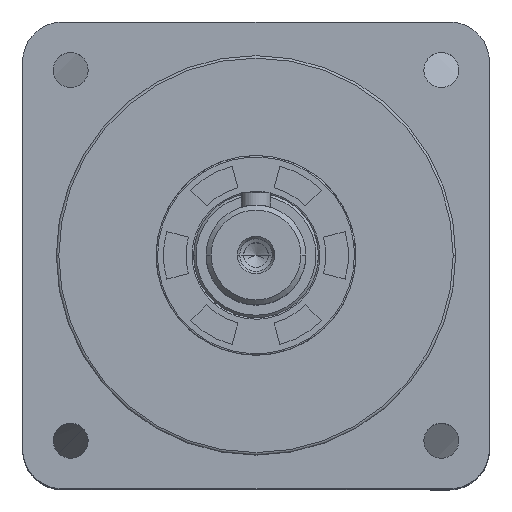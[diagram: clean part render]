
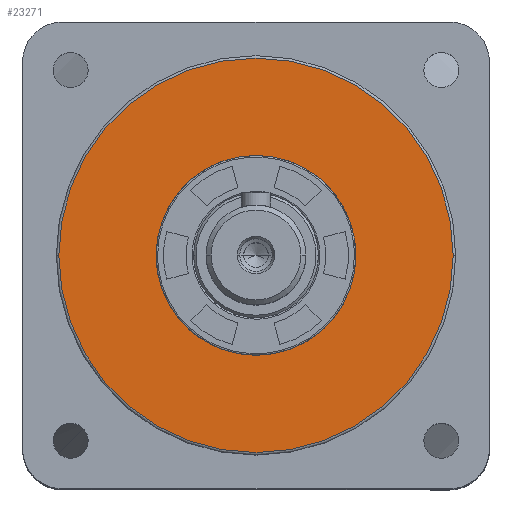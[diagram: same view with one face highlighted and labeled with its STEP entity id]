
A CAD part, top view. The second image highlights one B-rep face of the part: STEP entity #23271.
In plain terms, the highlighted planar face has unit normal (0, 0, 1).
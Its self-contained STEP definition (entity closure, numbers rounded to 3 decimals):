
#909 = DIRECTION ( 'NONE',  ( 1., 0., 0. ) ) ;
#2003 = DIRECTION ( 'NONE',  ( 0., 0., 1. ) ) ;
#3250 = AXIS2_PLACEMENT_3D ( 'NONE', #15526, #29781, #4238 ) ;
#3946 = CARTESIAN_POINT ( 'NONE',  ( 39.5, 0., 26.1 ) ) ;
#4238 = DIRECTION ( 'NONE',  ( 1., 0., 0. ) ) ;
#5743 = EDGE_LOOP ( 'NONE', ( #28744, #24204 ) ) ;
#6358 = AXIS2_PLACEMENT_3D ( 'NONE', #21644, #10048, #909 ) ;
#6542 = EDGE_LOOP ( 'NONE', ( #24660, #22615 ) ) ;
#6717 = EDGE_CURVE ( 'NONE', #15873, #7268, #11991, .T. ) ;
#6773 = PLANE ( 'NONE',  #29337 ) ;
#7081 = CARTESIAN_POINT ( 'NONE',  ( -20., 0., 26.1 ) ) ;
#7143 = DIRECTION ( 'NONE',  ( 0., 0., 1. ) ) ;
#7268 = VERTEX_POINT ( 'NONE', #27396 ) ;
#8026 = EDGE_CURVE ( 'NONE', #28729, #24650, #16324, .T. ) ;
#10048 = DIRECTION ( 'NONE',  ( 0., 0., 1. ) ) ;
#10408 = CIRCLE ( 'NONE', #3250, 39.5 ) ;
#11062 = AXIS2_PLACEMENT_3D ( 'NONE', #26165, #28514, #19028 ) ;
#11991 = CIRCLE ( 'NONE', #28386, 39.5 ) ;
#15181 = FACE_OUTER_BOUND ( 'NONE', #5743, .T. ) ;
#15526 = CARTESIAN_POINT ( 'NONE',  ( 0., 0., 26.1 ) ) ;
#15873 = VERTEX_POINT ( 'NONE', #3946 ) ;
#16324 = CIRCLE ( 'NONE', #6358, 20. ) ;
#16525 = CIRCLE ( 'NONE', #11062, 20. ) ;
#19028 = DIRECTION ( 'NONE',  ( 1., 0., 0. ) ) ;
#20398 = CARTESIAN_POINT ( 'NONE',  ( 20., 0., 26.1 ) ) ;
#20707 = CARTESIAN_POINT ( 'NONE',  ( 0., 0., 26.1 ) ) ;
#21072 = CARTESIAN_POINT ( 'NONE',  ( 0., 0., 26.1 ) ) ;
#21644 = CARTESIAN_POINT ( 'NONE',  ( 0., 0., 26.1 ) ) ;
#22615 = ORIENTED_EDGE ( 'NONE', *, *, #8026, .F. ) ;
#23271 = ADVANCED_FACE ( 'NONE', ( #26140, #15181 ), #6773, .T. ) ;
#23429 = DIRECTION ( 'NONE',  ( 1., 0., 0. ) ) ;
#24204 = ORIENTED_EDGE ( 'NONE', *, *, #26264, .T. ) ;
#24650 = VERTEX_POINT ( 'NONE', #20398 ) ;
#24660 = ORIENTED_EDGE ( 'NONE', *, *, #30045, .F. ) ;
#26140 = FACE_BOUND ( 'NONE', #6542, .T. ) ;
#26165 = CARTESIAN_POINT ( 'NONE',  ( 0., 0., 26.1 ) ) ;
#26264 = EDGE_CURVE ( 'NONE', #7268, #15873, #10408, .T. ) ;
#27396 = CARTESIAN_POINT ( 'NONE',  ( -39.5, 0., 26.1 ) ) ;
#27543 = DIRECTION ( 'NONE',  ( 1., 0., 0. ) ) ;
#28386 = AXIS2_PLACEMENT_3D ( 'NONE', #21072, #7143, #23429 ) ;
#28514 = DIRECTION ( 'NONE',  ( 0., 0., 1. ) ) ;
#28729 = VERTEX_POINT ( 'NONE', #7081 ) ;
#28744 = ORIENTED_EDGE ( 'NONE', *, *, #6717, .T. ) ;
#29337 = AXIS2_PLACEMENT_3D ( 'NONE', #20707, #2003, #27543 ) ;
#29781 = DIRECTION ( 'NONE',  ( 0., 0., 1. ) ) ;
#30045 = EDGE_CURVE ( 'NONE', #24650, #28729, #16525, .T. ) ;
